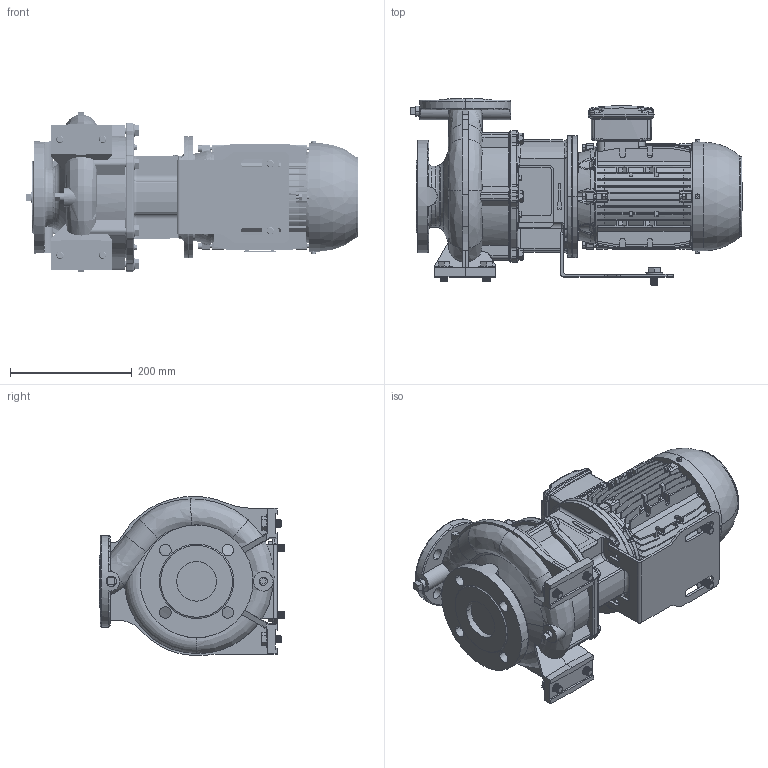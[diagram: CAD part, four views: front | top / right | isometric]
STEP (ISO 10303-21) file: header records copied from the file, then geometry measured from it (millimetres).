
FILE_DESCRIPTION (( 'STEP AP214' ), '1' );
FILE_NAME ('GSD4 40-160_1.1_(90SL)_W21.STEP', '2026-06-18T05:28:10', ( '' ), ( '' ), 'SwSTEP 2.0', 'SolidWorks 2024', '' );
FILE_SCHEMA (( 'AUTOMOTIVE_DESIGN' ));
Length unit declared in the file: millimetre
Products named in the file (7): Parametric bolt_SFT-A295B; 90S_L ALIE3_W21T_B5; Parametric Flat Washer_M12; Parametric bolt_SFT-A297B; CGSD1-4133; 40-160-90S_L_ﾃﾞﾌｫﾙﾄ; GSD4 40-160_1.1_(90SL)_W21
Assembly tree (15 placements, depth 2):
  GSD4 40-160_1.1_(90SL)_W21
    40-160-90S_L_ﾃﾞﾌｫﾙﾄ
    90S_L ALIE3_W21T_B5
    CGSD1-4133
    Parametric bolt_SFT-A295B  x2
    Parametric bolt_SFT-A297B  x4
    Parametric Flat Washer_M12  x6
Bounding box: 544.65 x 305 x 261.42 mm (x, y, z)
Volume: 12283383.7 mm3; surface area: 1084561.4 mm2
Topology: 18 solids, 22 shells, 3645 faces, 9578 edges, 6152 vertices
Faces by surface type: plane 1891, cylinder 993, torus 306, bspline 254, cone 179, sphere 22
Entity records: 184965 total; most frequent: CARTESIAN_POINT 102977, ORIENTED_EDGE 17900, DIRECTION 15805, EDGE_CURVE 8950, VERTEX_POINT 5772, AXIS2_PLACEMENT_3D 5314, VECTOR 5177, LINE 5177
